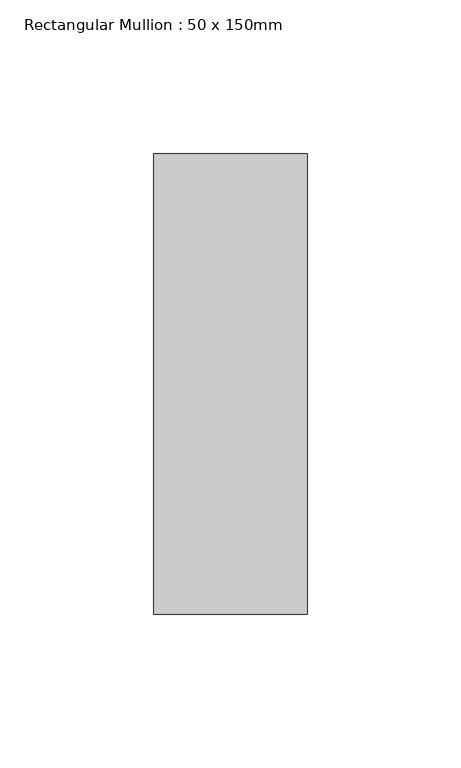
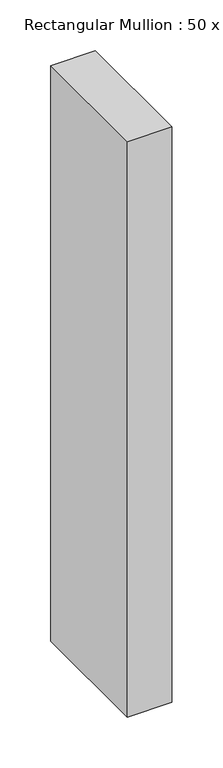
"""IFC4 building model written with IfcOpenShell, lengths in millimetres: member geometry, Rectangular Mullion : 50 x 150mm."""

from ifc_helpers import new_model, si_unit, frame, origin, place, context, project, spatial, polyline, outline, extrude, source, transform, mapped, element, save


def rectangular_mullion_50_x_150mm_648e3154(model_context):
    return source(origin(), model_context, "Body", "SweptSolid", [
        extrude(outline(polyline([(0.0, 75.0), (0.0, -75.0), (-50.0, -75.0), (-50.0, 75.0), (0.0, 75.0)])), frame((0.0, 0.0, -689.0), z_axis=(0.0, 0.0, 1.0), x_axis=(1.0, 0.0, 0.0)), (0.0, 0.0, 1.0), 689.0),
    ])


if __name__ == "__main__":
    model = new_model("IFC4")
    model_context = context("Model", 3, world=origin())
    ifc_project = project(units=[si_unit("LENGTHUNIT", "METRE", prefix="MILLI")], contexts=[model_context])
    site = spatial("IfcSite", under=ifc_project)
    building = spatial("IfcBuilding", under=site)
    placement = place(None, origin())
    rectangular_mullion_50_x_150mm_shape = rectangular_mullion_50_x_150mm_648e3154(model_context)
    element("IfcMember", 1, ObjectType="Rectangular Mullion : 50 x 150mm", at=placement, inside=building, context=model_context, shape_type="MappedRepresentation", body=[
        mapped(rectangular_mullion_50_x_150mm_shape, transform((0.0, 0.0, 0.0), x_axis=(1.0, 0.0, 0.0), y_axis=(0.0, 1.0, 0.0), z_axis=(0.0, 0.0, 1.0))),
    ])
    save(model, "model.ifc")
